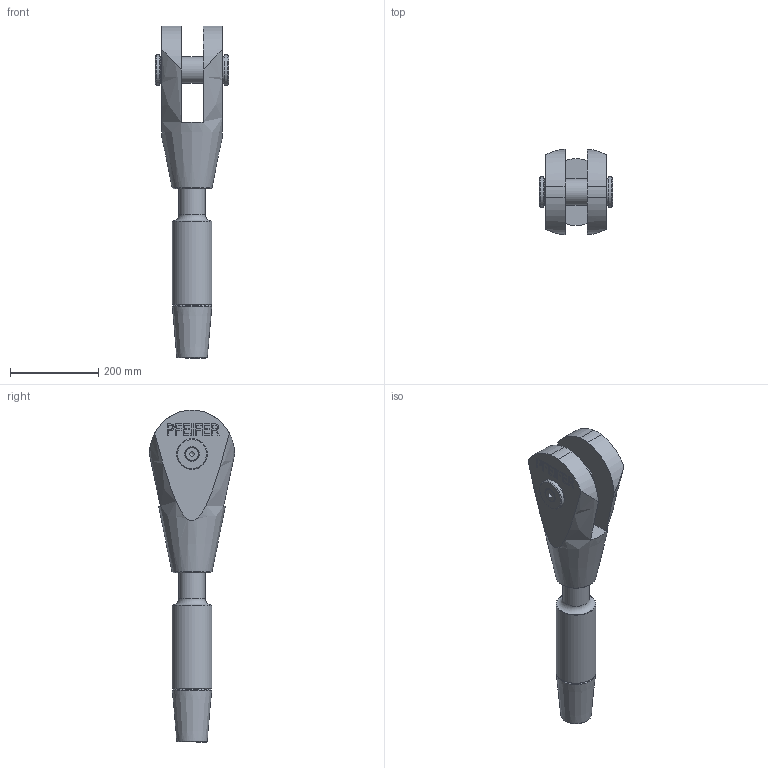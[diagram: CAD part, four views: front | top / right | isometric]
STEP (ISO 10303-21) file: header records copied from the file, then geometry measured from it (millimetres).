
FILE_DESCRIPTION(/* description */ (''),/* implementation_level */ '2;1');
FILE_NAME(/* name */ 'G:\Engineering\700 CAD\Internet-PX-1-step-igs-dxf\520-GAK-ADA-Arbeitsdateien\520-060-GAK-ADA.stp',/* time_stamp */ '2020-07-03T13:11:41+02:00',/* author */ ('schwarz'),/* organization */ (''),/* preprocessor_version */ 'ST-DEVELOPER v16.1',/* originating_system */ 'Autodesk Inventor 2016',/* authorisation */ '');
FILE_SCHEMA (('AUTOMOTIVE_DESIGN { 1 0 10303 214 3 1 1 }'));
Length unit declared in the file: centimetre
Products named in the file (1): 520-060-GAK-ADA-Kunde
Bounding box: 166.3 x 193.09 x 752.89 mm (x, y, z)
Volume: 6514099.4 mm3; surface area: 415933.3 mm2
Topology: 2 solids, 4 shells, 192 faces, 494 edges, 327 vertices
Faces by surface type: plane 138, bspline 21, cylinder 18, cone 14, torus 1
Full cylindrical faces by diameter (mm): 13.835 x1, 16 x1, 17.5 x1, 29.01 x1, 60 x2, 62.5 x1, 63 x2, 70 x2, 90 x1
Entity records: 5911 total; most frequent: CARTESIAN_POINT 1298, ORIENTED_EDGE 912, DIRECTION 792, EDGE_CURVE 456, LINE 348, VECTOR 348, VERTEX_POINT 316, EDGE_LOOP 242
